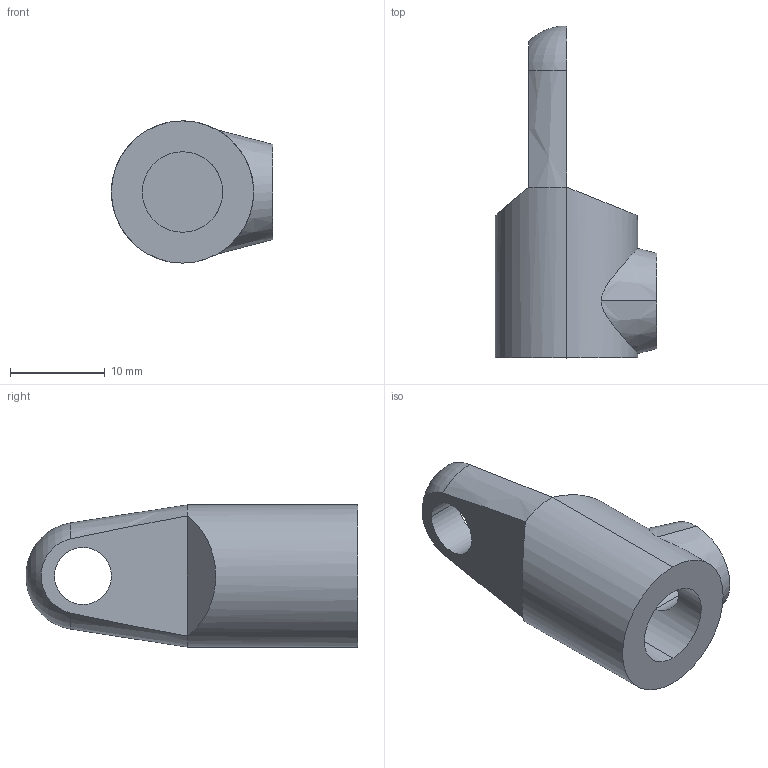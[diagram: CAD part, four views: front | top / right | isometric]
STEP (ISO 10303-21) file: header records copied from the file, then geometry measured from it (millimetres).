
FILE_DESCRIPTION (( 'STEP AP214' ), '1' );
FILE_NAME ('1C.904.050.STEP', '2009-02-05T15:33:16', ( 'AREK.P' ), ( 'RST' ), 'SwSTEP 2.0', 'SolidWorks 2008', '' );
FILE_SCHEMA (( 'AUTOMOTIVE_DESIGN' ));
Length unit declared in the file: millimetre
Products named in the file (1): 1C.904.050
Bounding box: 17 x 35 x 15 mm (x, y, z)
Volume: 2981.5 mm3; surface area: 2125.5 mm2
Topology: 1 solids, 1 shells, 20 faces, 44 edges, 27 vertices
Faces by surface type: cylinder 8, plane 7, cone 4, torus 1
Entity records: 761 total; most frequent: CARTESIAN_POINT 294, DIRECTION 96, ORIENTED_EDGE 86, EDGE_CURVE 43, AXIS2_PLACEMENT_3D 41, VERTEX_POINT 27, EDGE_LOOP 26, CIRCLE 20
